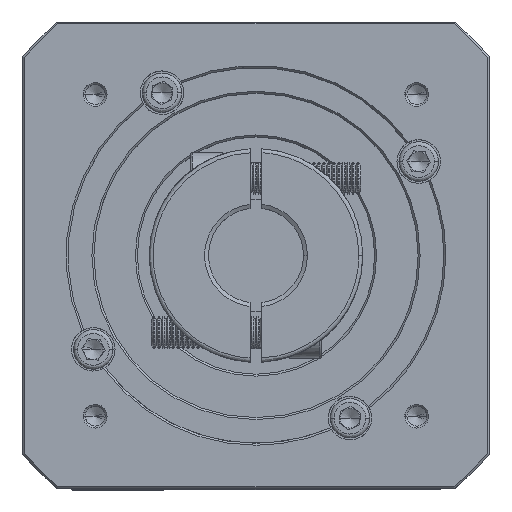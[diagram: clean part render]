
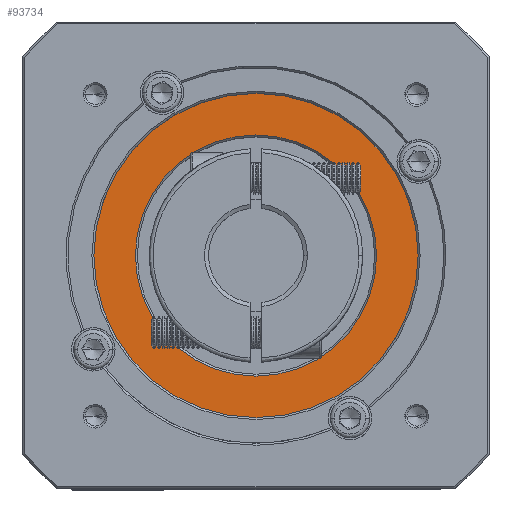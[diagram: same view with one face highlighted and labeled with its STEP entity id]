
A CAD part, top view. The second image highlights one B-rep face of the part: STEP entity #93734.
In plain terms, the highlighted planar face has unit normal (0, 0, 1).
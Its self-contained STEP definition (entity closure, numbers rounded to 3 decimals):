
#241 = ORIENTED_EDGE ( 'NONE', *, *, #104789, .T. ) ;
#4822 = CARTESIAN_POINT ( 'NONE',  ( 64.891, 125.363, 14.683 ) ) ;
#10495 = CARTESIAN_POINT ( 'NONE',  ( 105.891, 125.363, 14.683 ) ) ;
#12516 = ORIENTED_EDGE ( 'NONE', *, *, #43223, .T. ) ;
#14412 = CARTESIAN_POINT ( 'NONE',  ( 64.891, 125.363, 14.683 ) ) ;
#15182 = ORIENTED_EDGE ( 'NONE', *, *, #93048, .T. ) ;
#20755 = VERTEX_POINT ( 'NONE', #77438 ) ;
#21873 = DIRECTION ( 'NONE',  ( 0., 0., 1. ) ) ;
#21885 = EDGE_LOOP ( 'NONE', ( #15182, #70272 ) ) ;
#22191 = VERTEX_POINT ( 'NONE', #64679 ) ;
#22986 = PLANE ( 'NONE',  #26543 ) ;
#23163 = AXIS2_PLACEMENT_3D ( 'NONE', #80234, #61924, #98213 ) ;
#24800 = AXIS2_PLACEMENT_3D ( 'NONE', #4822, #21873, #66410 ) ;
#25870 = FACE_OUTER_BOUND ( 'NONE', #27638, .T. ) ;
#26543 = AXIS2_PLACEMENT_3D ( 'NONE', #39786, #41724, #95990 ) ;
#27638 = EDGE_LOOP ( 'NONE', ( #12516, #241 ) ) ;
#39786 = CARTESIAN_POINT ( 'NONE',  ( 64.891, 125.363, 14.683 ) ) ;
#41310 = DIRECTION ( 'NONE',  ( 1., 0., 0. ) ) ;
#41724 = DIRECTION ( 'NONE',  ( 0., 0., 1. ) ) ;
#43223 = EDGE_CURVE ( 'NONE', #68036, #43352, #115873, .T. ) ;
#43352 = VERTEX_POINT ( 'NONE', #111801 ) ;
#46758 = AXIS2_PLACEMENT_3D ( 'NONE', #14412, #76100, #41310 ) ;
#51380 = CIRCLE ( 'NONE', #46758, 30.5 ) ;
#55614 = DIRECTION ( 'NONE',  ( 0., 0., 1. ) ) ;
#61924 = DIRECTION ( 'NONE',  ( 0., 0., -1. ) ) ;
#64679 = CARTESIAN_POINT ( 'NONE',  ( 95.391, 125.363, 14.683 ) ) ;
#66410 = DIRECTION ( 'NONE',  ( 1., 0., 0. ) ) ;
#68036 = VERTEX_POINT ( 'NONE', #10495 ) ;
#70272 = ORIENTED_EDGE ( 'NONE', *, *, #101395, .T. ) ;
#72395 = CIRCLE ( 'NONE', #90914, 41. ) ;
#76100 = DIRECTION ( 'NONE',  ( 0., 0., -1. ) ) ;
#77438 = CARTESIAN_POINT ( 'NONE',  ( 34.391, 125.363, 14.683 ) ) ;
#80234 = CARTESIAN_POINT ( 'NONE',  ( 64.891, 125.363, 14.683 ) ) ;
#82925 = DIRECTION ( 'NONE',  ( 1., 0., 0. ) ) ;
#84650 = FACE_BOUND ( 'NONE', #21885, .T. ) ;
#90914 = AXIS2_PLACEMENT_3D ( 'NONE', #109186, #55614, #82925 ) ;
#93048 = EDGE_CURVE ( 'NONE', #22191, #20755, #51380, .T. ) ;
#93734 = ADVANCED_FACE ( 'NONE', ( #25870, #84650 ), #22986, .T. ) ;
#95990 = DIRECTION ( 'NONE',  ( 1., 0., 0. ) ) ;
#98213 = DIRECTION ( 'NONE',  ( 1., 0., 0. ) ) ;
#101395 = EDGE_CURVE ( 'NONE', #20755, #22191, #106632, .T. ) ;
#104789 = EDGE_CURVE ( 'NONE', #43352, #68036, #72395, .T. ) ;
#106632 = CIRCLE ( 'NONE', #23163, 30.5 ) ;
#109186 = CARTESIAN_POINT ( 'NONE',  ( 64.891, 125.363, 14.683 ) ) ;
#111801 = CARTESIAN_POINT ( 'NONE',  ( 23.891, 125.363, 14.683 ) ) ;
#115873 = CIRCLE ( 'NONE', #24800, 41. ) ;
